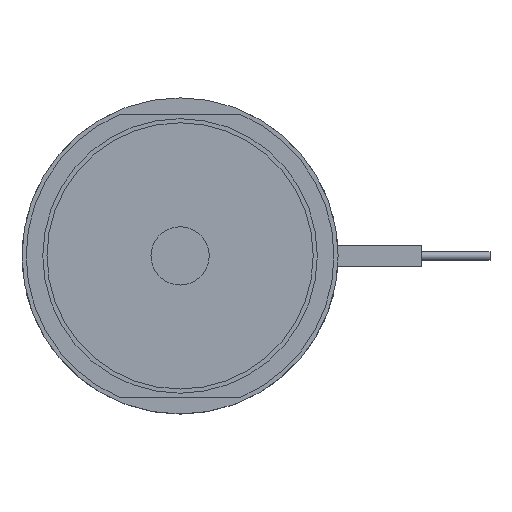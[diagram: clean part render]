
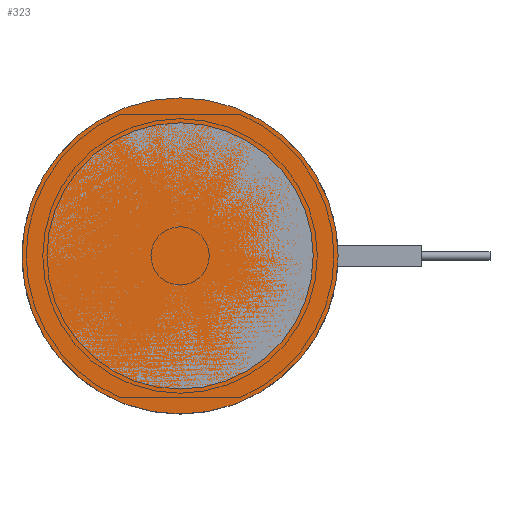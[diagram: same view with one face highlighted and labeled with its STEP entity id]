
A CAD part, top view. The second image highlights one B-rep face of the part: STEP entity #323.
In plain terms, the highlighted planar face has unit normal (0, 0, 1).
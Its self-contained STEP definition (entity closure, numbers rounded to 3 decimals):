
#224=PLANE('',#1089);
#260=FACE_OUTER_BOUND('',#491,.T.);
#323=ADVANCED_FACE('',(#260),#224,.F.);
#491=EDGE_LOOP('',(#621));
#621=ORIENTED_EDGE('',*,*,#903,.F.);
#812=VERTEX_POINT('',#1572);
#903=EDGE_CURVE('',#812,#812,#1001,.T.);
#1001=CIRCLE('',#1088,19.);
#1088=AXIS2_PLACEMENT_3D('',#1571,#1278,#1279);
#1089=AXIS2_PLACEMENT_3D('',#1573,#1280,#1281);
#1278=DIRECTION('',(0.,0.,-1.));
#1279=DIRECTION('',(-1.,0.,0.));
#1280=DIRECTION('',(0.,0.,-1.));
#1281=DIRECTION('',(-1.,0.,0.));
#1571=CARTESIAN_POINT('',(0.,0.,0.));
#1572=CARTESIAN_POINT('',(-19.,0.,0.));
#1573=CARTESIAN_POINT('',(0.,0.,0.));
